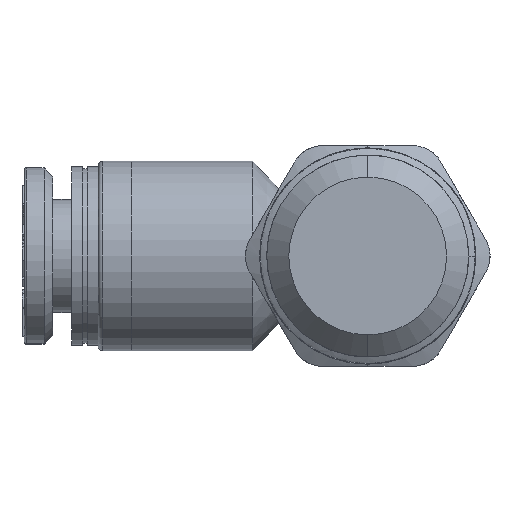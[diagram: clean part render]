
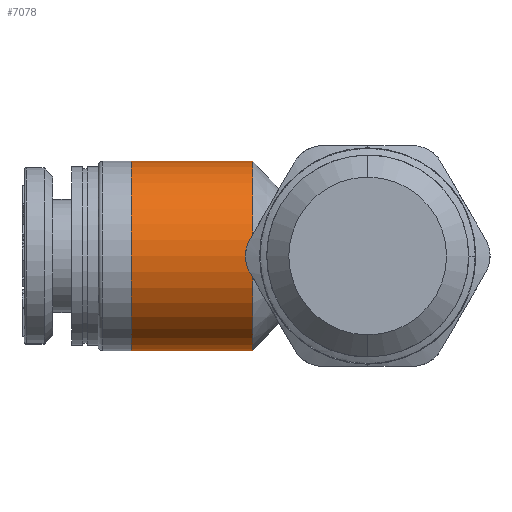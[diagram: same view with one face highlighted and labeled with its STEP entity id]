
A CAD part, front view. The second image highlights one B-rep face of the part: STEP entity #7078.
In plain terms, the highlighted cylindrical face has radius 4.3 mm (diameter 8.6 mm), a partial arc.
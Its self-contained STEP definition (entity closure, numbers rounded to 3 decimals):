
#196 = CARTESIAN_POINT ( 'NONE',  ( 5.5, 0., 4.3 ) ) ;
#403 = AXIS2_PLACEMENT_3D ( 'NONE', #1030, #2276, #3516 ) ;
#825 = LINE ( 'NONE', #7498, #5956 ) ;
#848 = DIRECTION ( 'NONE',  ( -1., 0., 0. ) ) ;
#885 = LINE ( 'NONE', #3900, #2560 ) ;
#1030 = CARTESIAN_POINT ( 'NONE',  ( 0., 0., 0. ) ) ;
#1534 = ORIENTED_EDGE ( 'NONE', *, *, #7176, .F. ) ;
#1657 = EDGE_CURVE ( 'NONE', #6480, #5305, #7281, .T. ) ;
#1768 = AXIS2_PLACEMENT_3D ( 'NONE', #4890, #4415, #5503 ) ;
#1944 = CARTESIAN_POINT ( 'NONE',  ( 0., 0., 4.3 ) ) ;
#2276 = DIRECTION ( 'NONE',  ( -1., 0., 0. ) ) ;
#2560 = VECTOR ( 'NONE', #7619, 1000. ) ;
#2627 = ORIENTED_EDGE ( 'NONE', *, *, #3621, .T. ) ;
#3516 = DIRECTION ( 'NONE',  ( 0., 0., 1. ) ) ;
#3621 = EDGE_CURVE ( 'NONE', #5305, #5067, #825, .T. ) ;
#3738 = VERTEX_POINT ( 'NONE', #5794 ) ;
#3900 = CARTESIAN_POINT ( 'NONE',  ( -2.7, 0., -4.3 ) ) ;
#3916 = AXIS2_PLACEMENT_3D ( 'NONE', #7575, #4588, #3992 ) ;
#3992 = DIRECTION ( 'NONE',  ( 0., 0., 1. ) ) ;
#4415 = DIRECTION ( 'NONE',  ( -1., 0., 0. ) ) ;
#4588 = DIRECTION ( 'NONE',  ( -1., 0., 0. ) ) ;
#4768 = EDGE_LOOP ( 'NONE', ( #1534, #6965, #2627, #5607 ) ) ;
#4890 = CARTESIAN_POINT ( 'NONE',  ( -2.7, 0., 0. ) ) ;
#5067 = VERTEX_POINT ( 'NONE', #1944 ) ;
#5305 = VERTEX_POINT ( 'NONE', #196 ) ;
#5361 = CIRCLE ( 'NONE', #403, 4.3 ) ;
#5503 = DIRECTION ( 'NONE',  ( 0., 0., 1. ) ) ;
#5539 = CYLINDRICAL_SURFACE ( 'NONE', #1768, 4.3 ) ;
#5607 = ORIENTED_EDGE ( 'NONE', *, *, #7295, .F. ) ;
#5707 = CARTESIAN_POINT ( 'NONE',  ( 5.5, 0., -4.3 ) ) ;
#5794 = CARTESIAN_POINT ( 'NONE',  ( 0., 0., -4.3 ) ) ;
#5956 = VECTOR ( 'NONE', #848, 1000. ) ;
#6480 = VERTEX_POINT ( 'NONE', #5707 ) ;
#6965 = ORIENTED_EDGE ( 'NONE', *, *, #1657, .T. ) ;
#7078 = ADVANCED_FACE ( 'NONE', ( #7803 ), #5539, .T. ) ;
#7176 = EDGE_CURVE ( 'NONE', #6480, #3738, #885, .T. ) ;
#7281 = CIRCLE ( 'NONE', #3916, 4.3 ) ;
#7295 = EDGE_CURVE ( 'NONE', #3738, #5067, #5361, .T. ) ;
#7498 = CARTESIAN_POINT ( 'NONE',  ( -2.7, 0., 4.3 ) ) ;
#7575 = CARTESIAN_POINT ( 'NONE',  ( 5.5, 0., 0. ) ) ;
#7619 = DIRECTION ( 'NONE',  ( -1., 0., 0. ) ) ;
#7803 = FACE_OUTER_BOUND ( 'NONE', #4768, .T. ) ;
